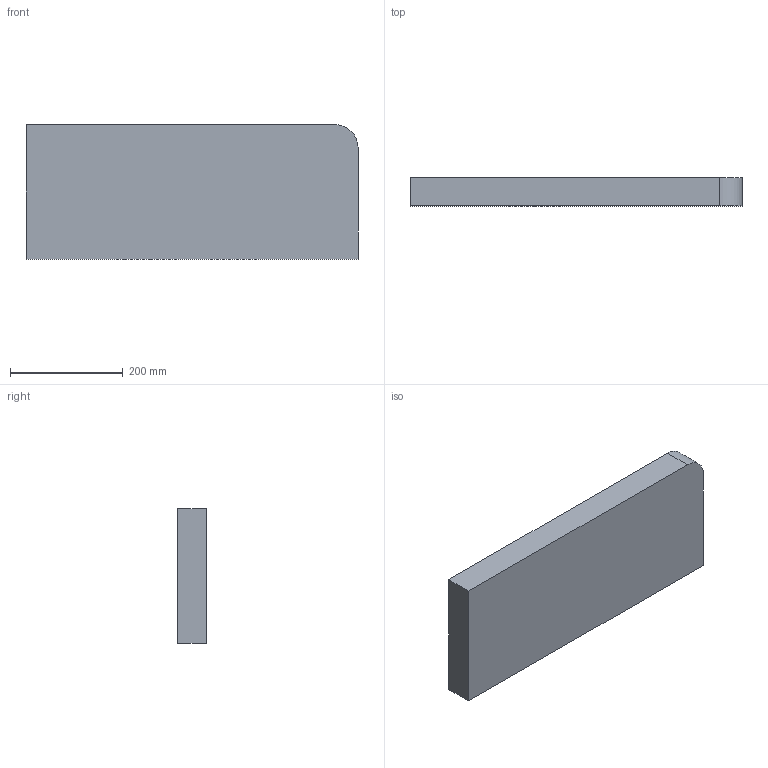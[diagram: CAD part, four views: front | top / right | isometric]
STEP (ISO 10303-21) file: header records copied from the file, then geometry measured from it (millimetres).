
FILE_DESCRIPTION(('CATIA V5 STEP Exchange'),'2;1');
FILE_NAME('C:\Users\andres.garcia\OneDrive - IQS\ASIGNATURAS\DAO\EXF\EXF-22223c\2inicio\Ej03-GARCIA_Andres.stp','2023-02-23T14:13:26+00:00',('none'),('none'),'CATIA Version 5-6 Release 2013 SP6','CATIA V5 STEP AP203','none');
FILE_SCHEMA(('CONFIG_CONTROL_DESIGN'));
Length unit declared in the file: millimetre
Products named in the file (1): Ej03-GARCIA_Andres
Bounding box: 590 x 50 x 239 mm (x, y, z)
Volume: 7028633.9 mm3; surface area: 365718.1 mm2
Topology: 1 solids, 2 shells, 12 faces, 29 edges, 22 vertices
Faces by surface type: plane 7, cylinder 5
Entity records: 383 total; most frequent: CARTESIAN_POINT 63, ORIENTED_EDGE 50, DIRECTION 49, EDGE_CURVE 27, AXIS2_PLACEMENT_3D 23, VERTEX_POINT 18, VECTOR 17, LINE 17
